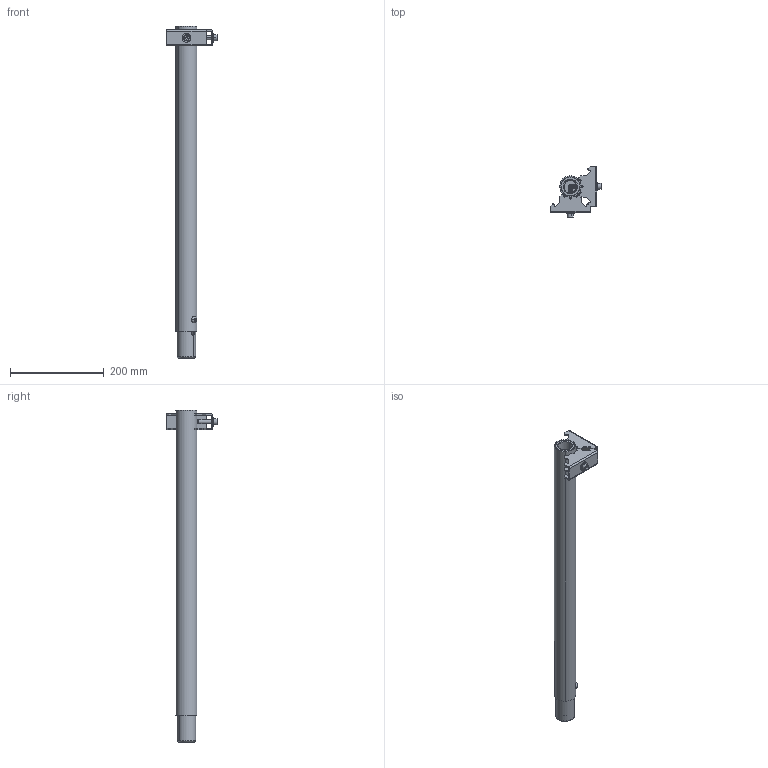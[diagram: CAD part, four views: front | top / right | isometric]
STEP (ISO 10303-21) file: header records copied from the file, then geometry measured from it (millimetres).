
FILE_DESCRIPTION (( 'STEP AP214' ), '1' );
FILE_NAME ('76268 Ben 680 2-koppl..STEP', '2014-04-15T08:40:02', ( '' ), ( '' ), 'SwSTEP 2.0', 'SolidWorks 2012', '' );
FILE_SCHEMA (( 'AUTOMOTIVE_DESIGN' ));
Length unit declared in the file: millimetre
Products named in the file (11): Flat Washer Narrow_AM_B18.22M - Plain washer, 8 mm, narrow; Socket Head Cap Screw_AM_B18.3.1M - 8 x 1.25 x 60 Hex SHCS -- 28SHX; Kopplingsbeslag; Ben 650mm skarv; Skruv M8x10_B18.3.4M - 8 x 1.25 x 10 SBHCS --N; Benf顤l鄚gning; Kurts benf顤l鄚gning; Benkurts skarv; Plastplugg benf顤l鄚gning; R顤 650mm skarv; 76268 Ben 680 2-koppl.
Assembly tree (13 placements, depth 3):
  76268 Ben 680 2-koppl.
    Ben 650mm skarv
      R顤 650mm skarv
      Plastplugg benf顤l鄚gning
      Benkurts skarv
      Kurts benf顤l鄚gning
      Benf顤l鄚gning
      Skruv M8x10_B18.3.4M - 8 x 1.25 x 10 SBHCS --N
    Kopplingsbeslag  x2
    Socket Head Cap Screw_AM_B18.3.1M - 8 x 1.25 x 60 Hex SHCS -- 28SHX  x2
    Flat Washer Narrow_AM_B18.22M - Plain washer, 8 mm, narrow  x2
Bounding box: 108.27 x 108.27 x 706.5 mm (x, y, z)
Volume: 335992.1 mm3; surface area: 302904.7 mm2
Topology: 12 solids, 12 shells, 583 faces, 1500 edges, 937 vertices
Faces by surface type: cone 216, plane 183, cylinder 174, torus 8, sphere 2
Entity records: 12498 total; most frequent: CARTESIAN_POINT 2683, DIRECTION 1904, ORIENTED_EDGE 1716, EDGE_CURVE 858, AXIS2_PLACEMENT_3D 731, VERTEX_POINT 538, LINE 442, VECTOR 442
